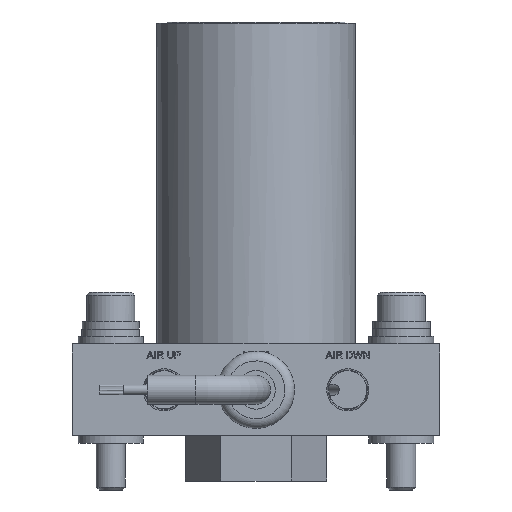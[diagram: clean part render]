
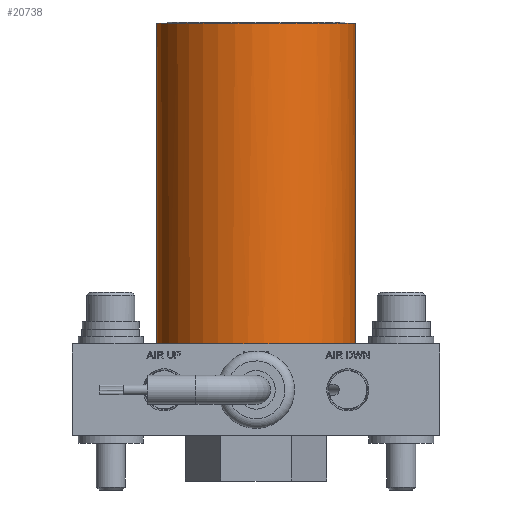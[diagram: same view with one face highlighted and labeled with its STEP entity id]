
A CAD part, front view. The second image highlights one B-rep face of the part: STEP entity #20738.
In plain terms, the highlighted cylindrical face has radius 20.637 mm (diameter 41.275 mm), a full revolution.
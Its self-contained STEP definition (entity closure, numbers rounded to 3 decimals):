
#1302=FACE_OUTER_BOUND('',#2504,.T.);
#2504=EDGE_LOOP('',(#13952,#13953,#13954,#13955,#13956,#13957,#13958,#13959));
#4805=CIRCLE('',#22087,20.638);
#4806=CIRCLE('',#22088,20.638);
#4807=CIRCLE('',#22090,20.638);
#4814=CIRCLE('',#22100,20.638);
#4815=CIRCLE('',#22101,20.638);
#4816=CIRCLE('',#22102,20.638);
#5380=LINE('',#36363,#6863);
#6863=VECTOR('',#23944,20.638);
#8695=VERTEX_POINT('',#36331);
#8697=VERTEX_POINT('',#36334);
#8698=VERTEX_POINT('',#36336);
#8700=VERTEX_POINT('',#36341);
#8701=VERTEX_POINT('',#36343);
#8706=VERTEX_POINT('',#36361);
#10781=EDGE_CURVE('',#8695,#8697,#4805,.T.);
#10782=EDGE_CURVE('',#8697,#8698,#4806,.T.);
#10786=EDGE_CURVE('',#8701,#8700,#4807,.T.);
#10795=EDGE_CURVE('',#8706,#8706,#4814,.T.);
#10796=EDGE_CURVE('',#8706,#8697,#5380,.T.);
#10797=EDGE_CURVE('',#8700,#8695,#4815,.T.);
#10798=EDGE_CURVE('',#8698,#8701,#4816,.T.);
#13952=ORIENTED_EDGE('',*,*,#10795,.T.);
#13953=ORIENTED_EDGE('',*,*,#10796,.T.);
#13954=ORIENTED_EDGE('',*,*,#10781,.F.);
#13955=ORIENTED_EDGE('',*,*,#10797,.F.);
#13956=ORIENTED_EDGE('',*,*,#10786,.F.);
#13957=ORIENTED_EDGE('',*,*,#10798,.F.);
#13958=ORIENTED_EDGE('',*,*,#10782,.F.);
#13959=ORIENTED_EDGE('',*,*,#10796,.F.);
#19372=CYLINDRICAL_SURFACE('',#22099,20.638);
#20738=ADVANCED_FACE('',(#1302),#19372,.T.);
#22087=AXIS2_PLACEMENT_3D('',#36335,#23911,#23912);
#22088=AXIS2_PLACEMENT_3D('',#36337,#23913,#23914);
#22090=AXIS2_PLACEMENT_3D('',#36345,#23920,#23921);
#22099=AXIS2_PLACEMENT_3D('',#36360,#23940,#23941);
#22100=AXIS2_PLACEMENT_3D('',#36362,#23942,#23943);
#22101=AXIS2_PLACEMENT_3D('',#36364,#23945,#23946);
#22102=AXIS2_PLACEMENT_3D('',#36365,#23947,#23948);
#23911=DIRECTION('center_axis',(0.,0.,
-1.));
#23912=DIRECTION('ref_axis',(-0.039,-0.999,0.));
#23913=DIRECTION('center_axis',(0.,0.,
-1.));
#23914=DIRECTION('ref_axis',(-0.039,-0.999,0.));
#23920=DIRECTION('center_axis',(0.,0.,
-1.));
#23921=DIRECTION('ref_axis',(-0.039,-0.999,0.));
#23940=DIRECTION('center_axis',(0.,0.,
1.));
#23941=DIRECTION('ref_axis',(-0.039,-0.999,0.));
#23942=DIRECTION('center_axis',(0.,0.,
-1.));
#23943=DIRECTION('ref_axis',(-0.039,-0.999,0.));
#23944=DIRECTION('',(0.,0.,-1.));
#23945=DIRECTION('center_axis',(0.,0.,-1.));
#23946=DIRECTION('ref_axis',(-0.039,-0.999,0.));
#23947=DIRECTION('center_axis',(0.,0.,-1.));
#23948=DIRECTION('ref_axis',(-0.039,-0.999,0.));
#36331=CARTESIAN_POINT('',(-7.938,19.05,19.05));
#36334=CARTESIAN_POINT('',(0.797,20.622,19.05));
#36335=CARTESIAN_POINT('Origin',(0.,0.,
19.05));
#36336=CARTESIAN_POINT('',(7.938,19.05,19.05));
#36337=CARTESIAN_POINT('Origin',(0.,0.,
19.05));
#36341=CARTESIAN_POINT('',(-7.938,-19.05,19.05));
#36343=CARTESIAN_POINT('',(7.938,-19.05,19.05));
#36345=CARTESIAN_POINT('Origin',(0.,0.,
19.05));
#36360=CARTESIAN_POINT('Origin',(0.,0.,
19.05));
#36361=CARTESIAN_POINT('',(0.797,20.622,85.598));
#36362=CARTESIAN_POINT('Origin',(0.,0.,
85.598));
#36363=CARTESIAN_POINT('',(0.797,20.622,19.05));
#36364=CARTESIAN_POINT('Origin',(0.,0.,
19.05));
#36365=CARTESIAN_POINT('Origin',(0.,0.,
19.05));
